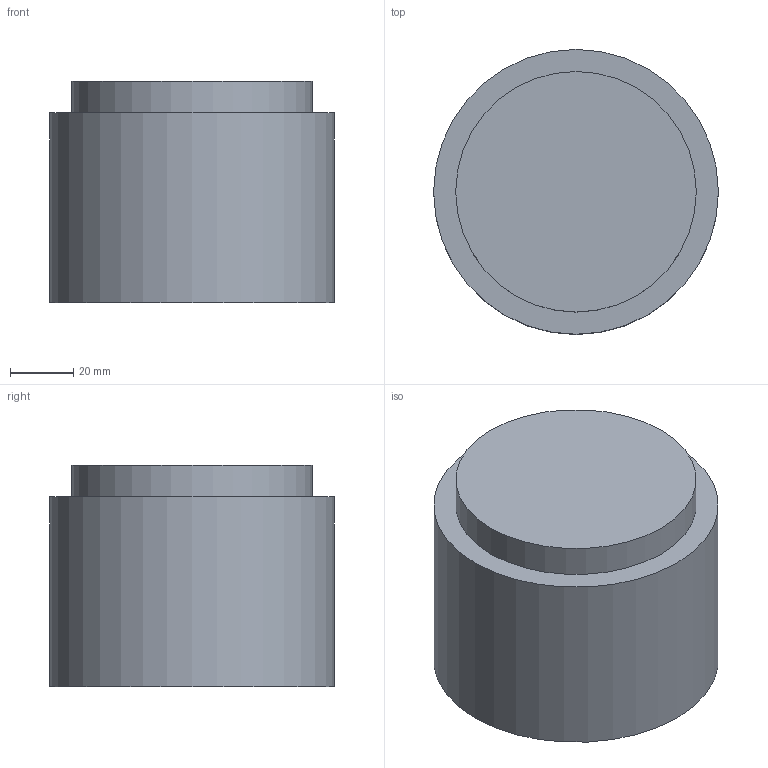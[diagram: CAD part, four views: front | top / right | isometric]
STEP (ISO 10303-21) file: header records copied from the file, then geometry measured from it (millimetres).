
FILE_DESCRIPTION(('Open CASCADE Model'),'2;1');
FILE_NAME('Open CASCADE Shape Model','2026-09-19T16:36:15',('Author'),( 'Open CASCADE'),'Open CASCADE STEP processor 7.8','Open CASCADE 7.8' ,'Unknown');
FILE_SCHEMA(('AUTOMOTIVE_DESIGN { 1 0 10303 214 1 1 1 1 }'));
Length unit declared in the file: millimetre
Products named in the file (1): Open CASCADE STEP translator 7.8 20
Bounding box: 90 x 90 x 70 mm (x, y, z)
Volume: 427068.1 mm3; surface area: 32075.7 mm2
Topology: 1 solids, 1 shells, 5 faces, 6 edges, 4 vertices
Faces by surface type: plane 3, cylinder 2
Full cylindrical faces by diameter (mm): 76 x1, 90 x1
Entity records: 192 total; most frequent: DIRECTION 34, CARTESIAN_POINT 28, ORIENTED_EDGE 12, PCURVE 12, DEFINITIONAL_REPRESENTATION 12, AXIS2_PLACEMENT_3D 10, LINE 10, VECTOR 10
